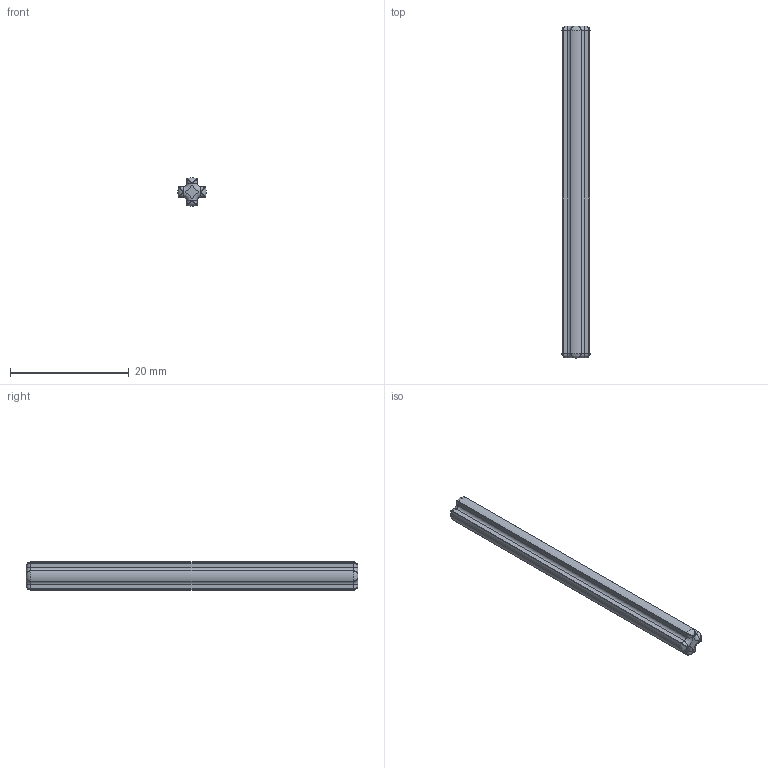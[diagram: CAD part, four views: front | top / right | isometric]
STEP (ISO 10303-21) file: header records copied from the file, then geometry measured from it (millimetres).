
FILE_DESCRIPTION(/* description */ ('Unknown'),/* implementation_level */ '2;1');
FILE_NAME(/* name */ 'ClGray_4211805_JCA',/* time_stamp */ '2025-07-21T23:53:18+02:00',/* author */ ('Unknown'),/* organization */ ('Unknown'),/* preprocessor_version */ 'ST-DEVELOPER v19.4',/* originating_system */ 'Solid Edge',/* authorisation */ 'Unknown');
FILE_SCHEMA (('AUTOMOTIVE_DESIGN {1 0 10303 214 3 1 1}'));
Length unit declared in the file: millimetre
Products named in the file (1): ClGray_4211805_JCA
Bounding box: 4.79 x 56 x 4.79 mm (x, y, z)
Volume: 770.3 mm3; surface area: 966.5 mm2
Topology: 1 solids, 1 shells, 74 faces, 168 edges, 80 vertices
Faces by surface type: cylinder 32, torus 16, bspline 16, plane 10
Entity records: 2142 total; most frequent: CARTESIAN_POINT 659, ORIENTED_EDGE 304, DIRECTION 302, EDGE_CURVE 152, AXIS2_PLACEMENT_3D 123, VERTEX_POINT 80, EDGE_LOOP 74, FACE_BOUND 74
